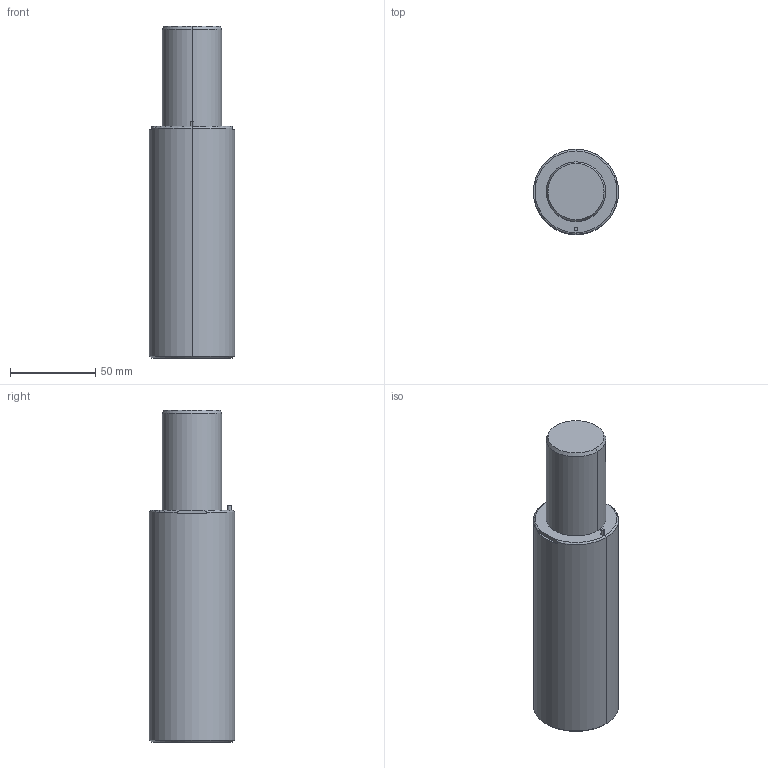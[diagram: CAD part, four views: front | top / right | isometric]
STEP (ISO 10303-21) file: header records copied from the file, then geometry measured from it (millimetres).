
FILE_DESCRIPTION(/* description */ (''),/* implementation_level */ '2;1');
FILE_NAME(/* name */ '3d_gsx50-56_03981_r00.stp',/* time_stamp */ '2011-01-10T14:15:12+09:00',/* author */ ('MISUMI'),/* organization */ (''),/* preprocessor_version */ 'ST-DEVELOPER v11',/* originating_system */ 'UGS - NX 5.0',/* authorisation */ '');
FILE_SCHEMA (('CONFIG_CONTROL_DESIGN'));
Length unit declared in the file: millimetre
Products named in the file (1): 3d_gsx50-56_03981_r00
Bounding box: 50 x 50 x 195 mm (x, y, z)
Volume: 320239.9 mm3; surface area: 33245.4 mm2
Topology: 1 solids, 1 shells, 59 faces, 130 edges, 78 vertices
Faces by surface type: cylinder 28, plane 15, cone 12, torus 4
Entity records: 1724 total; most frequent: CARTESIAN_POINT 320, DIRECTION 308, ORIENTED_EDGE 244, AXIS2_PLACEMENT_3D 130, EDGE_CURVE 122, VERTEX_POINT 78, EDGE_LOOP 72, CIRCLE 70
